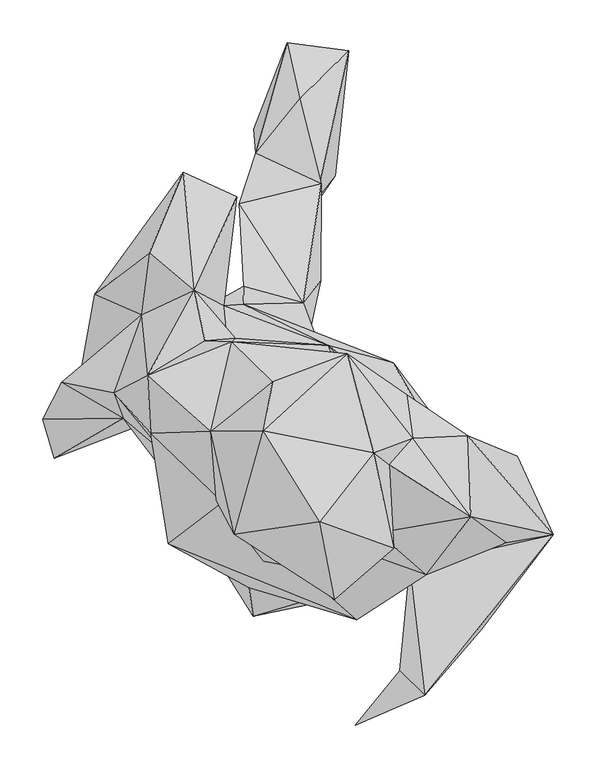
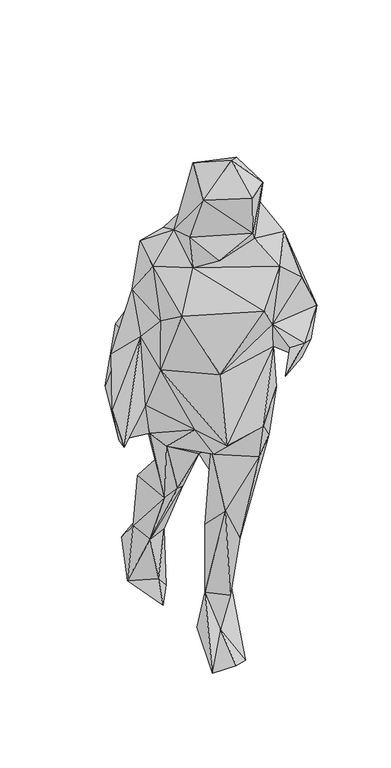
"""IFC4 building model written with IfcOpenShell, lengths in millimetres: geographic element geometry, Enscape AssetDefinition - Alyssa 005 Walking : Enscape AssetDefinition - Alyssa 005 Walking."""

from ifc_helpers import new_model, si_unit, origin, place, context, project, spatial, triangles, source, transform, mapped, element, save


def geographic_element_a56a722a(model_context):
    return source(origin(), model_context, "Body", "Tessellation", [
        triangles([(-276.926992, -15.4660005, 916.5769747), (-203.4629987, 64.4159991, 909.8110359), (-236.8440099, 14.1009993, 777.3479731), (-263.1900035, -61.2600008, 807.6350052), (-172.7329885, -26.4350007, 901.5939503), (-141.9710036, 3.5530001, 775.2509354), (-73.6709983, -139.1289986, 850.3089993), (-116.6069994, -49.4359996, 753.2439938), (9.0460003, -89.1560042, 725.8099852), (-13.9640005, -145.1080032, 746.3199978), (-26.4219996, 41.3610019, 519.8680135), (-9.7610003, 227.5810033, 221.5499943), (49.9719997, 147.0199959, 435.7129758), (24.3500013, 240.5119909, 64.112997), (44.7259991, 242.3070122, 231.2309986), (4.3270001, 178.9129892, 16.2620002), (66.9970007, 270.8689861, 9.6669994), (-28.7369996, 325.3169889, 24.2270005), (82.7009931, 417.5899904, 98.4610049), (10.5280002, 426.8000024, 103.7529966), (-26.3469996, 297.2759861, 232.9129998), (24.9559985, 361.3240208, 204.7230054), (50.5869967, 261.4240139, 337.9290098), (-35.9260002, 99.1969975, 454.2999953), (-40.7840022, 140.538006, 567.9110112), (-46.071997, 237.8049977, 452.7040172), (29.5619992, 121.6399953, 579.1010259), (-110.8999986, 101.4600043, 802.9860157), (-41.4260007, 119.6710021, 758.8499743), (58.7499977, 71.5610026, 1037.7930496), (134.8820013, 50.7519984, 849.3419798), (44.6299975, 80.0759989, 767.9700571), (16.1359995, -8.2550001, 655.8750097), (60.1049977, -6.2699996, 747.0800531), (196.6110005, -30.9339994, 772.0990202), (204.0770056, -126.7309909, 896.0180552), (177.736008, -23.6089991, 1074.2339939), (108.1420002, -218.2590069, 846.2899858), (103.0680003, -204.1669892, 733.2469585), (71.8889986, -145.2910044, 422.6449871), (67.996004, -52.1979994, 538.4789778), (174.9569989, -132.0569921, 741.5300285), (5.0459998, -59.4489967, 443.4849941), (13.4240001, -164.7100044, 550.6870262), (124.5869993, -56.6410013, 389.4740104), (61.6599991, -108.0490007, 204.5799909), (29.0029989, -108.4539996, 96.1289979), (100.2250052, -45.9340013, 189.8300009), (-34.0350001, -170.2559958, 3.56), (38.8350024, 42.8589982, 9.7939993), (8.0770001, -54.4059996, 201.8329928), (62.1449985, 6.2930002, 205.5300056), (10.3430006, -229.7189906, 50.2619984), (81.065001, -161.1479944, 4.0280001), (109.3630012, 13.5390003, 8.8060004), (154.2509953, -189.3269975, 1169.6129831), (154.5900008, -192.5660076, 1093.8730568), (-29.6800016, -246.8580062, 843.4759861), (-144.756008, -63.6729985, 1038.5129185), (-136.9179962, -52.7179985, 1201.1859106), (-34.139, -213.3109986, 1073.1029583), (-129.1570056, -161.6240009, 1280.4490231), (-193.1599939, 15.7179995, 1288.5149551), (-181.9480147, -14.2710005, 1139.1210217), (-149.8360032, -32.2739998, 1383.1959492), (-160.2679972, 107.3220011, 1066.55096), (-254.4699871, 27.9269995, 1078.4449287), (-215.4300008, 131.3119976, 889.9490215), (-151.2140077, 180.1560093, 1053.1530132), (-111.821999, 274.6750038, 878.126996), (-48.800001, 245.9499948, 860.5120102), (-63.9259945, 117.6789998, 929.9459988), (-59.0779982, 66.6859959, 1056.0439705), (-50.5240009, 79.785001, 1183.4050192), (71.1179973, 38.4229999, 1333.623975), (-86.1659978, 76.5560012, 1348.2200317), (-54.3970022, 75.6469951, 1420.2429611), (-98.515998, 135.7190051, 1176.4049377), (-153.2510018, 36.2630005, 1431.5890709), (-17.401, -29.3960005, 1696.9049984), (-79.1360036, -29.9379982, 1484.0618855), (-17.2240009, -182.3120005, 1447.4338886), (-72.9899988, -110.728997, 1506.1039993), (66.4749986, -226.9950108, 1664.0289528), (-51.6320001, -150.6910018, 1650.7999638), (82.8980014, -201.1339984, 1518.8460995), (135.326996, -167.2020035, 1659.5840206), (-65.4560019, -113.1920008, 1397.8200565), (117.1979972, -149.138008, 1457.9299049), (48.6419982, -136.0339931, 1748.2009953), (112.1020055, -55.0680004, 1687.3779636), (158.0119939, -37.8249986, 1465.5351093), (80.7080006, 61.3810008, 1378.9948975), (130.1269954, -69.1979973, 1600.1620663), (222.5690091, -34.7429988, 1365.3200054), (-6.7190002, 28.5940009, 1505.8939831), (105.8369991, 13.9509994, 1054.8340153), (150.8949956, 13.2590006, 1363.2149014), (200.1199978, -47.0540002, 1242.9809612), (280.9279833, -59.0320027, 1071.5939661), (323.148008, -151.2680015, 1154.20404), (238.4819913, -263.13799, 1132.9749578), (267.7550046, -160.9730051, 1277.1560555), (174.0710064, -198.33099, 1370.9449528), (225.9200037, -130.0140027, 1434.2069344), (206.9610047, -262.7620136, 1077.9240303), (92.220997, -251.1889918, 1273.2328938), (90.2420026, -375.068022, 1123.1100803), (142.4529963, -310.7710018, 1165.7849464), (172.229004, -339.9380078, 1187.7960302)], [[109, 108, 110], [102, 110, 108], [106, 102, 108], [109, 106, 108], [109, 110, 56], [56, 104, 107], [109, 56, 106], [56, 107, 61], [56, 103, 104], [104, 103, 105], [56, 101, 103], [103, 101, 105], [56, 110, 101], [110, 102, 101], [102, 100, 101], [102, 106, 100], [105, 101, 95], [101, 100, 95], [95, 100, 99], [95, 99, 98], [97, 75, 98], [80, 93, 96], [93, 98, 75], [93, 77, 96], [75, 77, 93], [92, 98, 93], [92, 95, 98], [105, 95, 92], [94, 105, 92], [91, 92, 93], [91, 93, 80], [94, 92, 91], [90, 91, 80], [90, 84, 87], [90, 87, 91], [91, 87, 94], [94, 89, 105], [94, 87, 89], [104, 105, 89], [88, 107, 104], [88, 104, 89], [88, 89, 82], [87, 86, 89], [86, 87, 84], [82, 89, 86], [85, 84, 90], [80, 85, 90], [86, 84, 85], [82, 86, 83], [86, 85, 83], [82, 83, 88], [77, 81, 96], [81, 85, 80], [88, 83, 81], [80, 96, 81], [83, 85, 81], [77, 79, 81], [77, 76, 79], [78, 79, 76], [76, 74, 78], [74, 76, 77], [30, 75, 97], [75, 30, 77], [30, 74, 77], [30, 73, 74], [78, 74, 73], [30, 72, 73], [73, 72, 78], [78, 72, 71], [71, 72, 28], [71, 70, 78], [28, 70, 71], [3, 70, 28], [69, 78, 70], [70, 68, 69], [70, 3, 68], [3, 2, 68], [66, 78, 69], [68, 66, 69], [78, 66, 79], [2, 66, 68], [2, 67, 66], [66, 67, 63], [66, 63, 79], [63, 65, 79], [81, 65, 88], [79, 65, 81], [62, 107, 88], [61, 107, 62], [62, 88, 65], [60, 62, 65], [63, 60, 65], [64, 63, 67], [60, 63, 64], [59, 62, 60], [62, 59, 61], [64, 59, 60], [58, 61, 59], [7, 58, 59], [100, 106, 57], [57, 106, 56], [57, 56, 61], [61, 58, 57], [55, 49, 50], [49, 54, 53], [54, 49, 55], [47, 53, 54], [49, 53, 47], [48, 54, 55], [47, 54, 48], [52, 48, 55], [55, 50, 52], [51, 43, 52], [51, 49, 47], [50, 51, 52], [50, 49, 51], [46, 47, 48], [51, 47, 46], [45, 48, 52], [46, 48, 45], [45, 52, 41], [41, 52, 43], [41, 43, 9], [51, 46, 44], [44, 43, 51], [43, 44, 9], [40, 46, 45], [44, 46, 40], [41, 42, 45], [42, 40, 45], [40, 39, 44], [42, 39, 40], [44, 39, 9], [39, 10, 9], [58, 38, 57], [39, 42, 38], [10, 39, 38], [38, 58, 7], [10, 38, 7], [57, 38, 36], [38, 42, 36], [97, 37, 30], [100, 57, 37], [99, 37, 98], [37, 97, 98], [100, 37, 99], [57, 36, 37], [37, 31, 30], [35, 31, 37], [36, 35, 37], [36, 42, 35], [42, 41, 34], [42, 34, 35], [41, 9, 33], [34, 41, 33], [35, 34, 32], [32, 34, 33], [35, 32, 31], [31, 29, 30], [32, 29, 31], [72, 30, 29], [29, 28, 72], [27, 32, 33], [32, 27, 29], [29, 27, 25], [28, 29, 25], [24, 28, 25], [26, 27, 23], [24, 25, 26], [25, 27, 26], [26, 23, 21], [26, 21, 24], [22, 23, 15], [22, 21, 23], [22, 20, 21], [15, 19, 22], [20, 22, 19], [15, 17, 19], [20, 18, 21], [18, 20, 19], [17, 18, 19], [17, 16, 18], [14, 16, 17], [17, 15, 14], [16, 14, 18], [12, 21, 18], [12, 14, 15], [14, 12, 18], [24, 21, 12], [23, 13, 15], [27, 13, 23], [27, 33, 13], [12, 15, 13], [13, 11, 12], [24, 12, 11], [33, 11, 13], [24, 11, 8], [7, 8, 10], [10, 8, 9], [33, 8, 11], [8, 33, 9], [28, 6, 3], [6, 8, 7], [24, 6, 28], [24, 8, 6], [6, 7, 5], [64, 5, 59], [7, 59, 5], [3, 6, 5], [64, 4, 5], [4, 3, 5], [2, 1, 67], [2, 3, 1], [3, 4, 1], [1, 64, 67], [1, 4, 64]]),
    ])


if __name__ == "__main__":
    model = new_model("IFC4")
    model_context = context("Model", 3, world=origin())
    ifc_project = project(units=[si_unit("LENGTHUNIT", "METRE", prefix="MILLI")], contexts=[model_context])
    site = spatial("IfcSite", under=ifc_project)
    building = spatial("IfcBuilding", under=site)
    placement = place(None, origin())
    geographic_element_shape = geographic_element_a56a722a(model_context)
    element("IfcGeographicElement", 1, ObjectType="Enscape AssetDefinition - Alyssa 005 Walking : Enscape AssetDefinition - Alyssa 005 Walking", at=placement, inside=building, context=model_context, shape_type="MappedRepresentation", body=[
        mapped(geographic_element_shape, transform((0.0, 0.0, 0.0), x_axis=(1.0, 0.0, 0.0), y_axis=(0.0, 1.0, 0.0), z_axis=(0.0, 0.0, 1.0))),
    ])
    save(model, "model.ifc")
